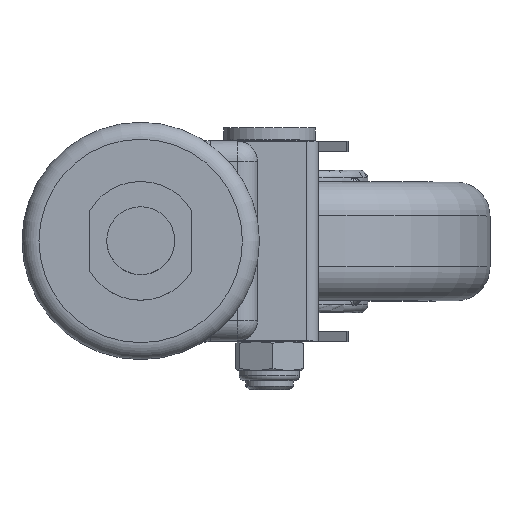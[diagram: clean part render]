
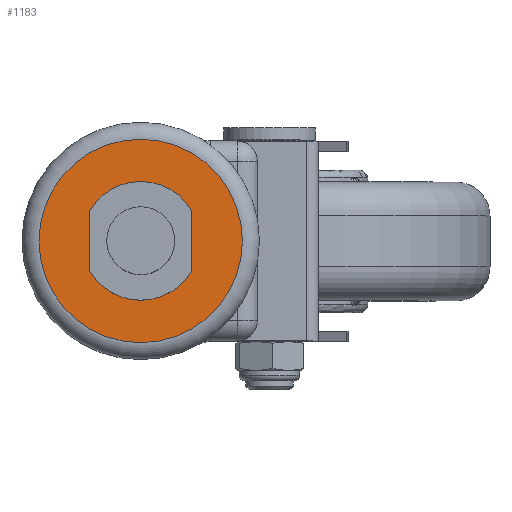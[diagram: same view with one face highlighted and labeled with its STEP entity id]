
A CAD part, top view. The second image highlights one B-rep face of the part: STEP entity #1183.
In plain terms, the highlighted planar face has unit normal (0, 0, 1).
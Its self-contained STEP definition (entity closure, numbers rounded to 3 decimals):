
#1183=ADVANCED_FACE('',(#3744,#3745),#1909,.F.);
#1909=PLANE('',#11648);
#2937=LINE('',#16042,#3336);
#2940=LINE('',#16105,#3339);
#3336=VECTOR('',#12854,1.);
#3339=VECTOR('',#12861,1.);
#3744=FACE_BOUND('',#3953,.T.);
#3745=FACE_BOUND('',#3954,.T.);
#3953=EDGE_LOOP('',(#4986));
#3954=EDGE_LOOP('',(#4987,#4988,#4989,#4990));
#4986=ORIENTED_EDGE('',*,*,#9482,.F.);
#4987=ORIENTED_EDGE('',*,*,#9480,.F.);
#4988=ORIENTED_EDGE('',*,*,#9478,.T.);
#4989=ORIENTED_EDGE('',*,*,#9476,.T.);
#4990=ORIENTED_EDGE('',*,*,#9475,.T.);
#8392=VERTEX_POINT('',#15982);
#8393=VERTEX_POINT('',#15984);
#8394=VERTEX_POINT('',#16043);
#8395=VERTEX_POINT('',#16047);
#8397=VERTEX_POINT('',#16111);
#9475=EDGE_CURVE('',#8392,#8393,#11051,.T.);
#9476=EDGE_CURVE('',#8394,#8392,#2937,.T.);
#9478=EDGE_CURVE('',#8395,#8394,#11052,.T.);
#9480=EDGE_CURVE('',#8395,#8393,#2940,.T.);
#9482=EDGE_CURVE('',#8397,#8397,#11054,.T.);
#11051=CIRCLE('',#11641,17.5);
#11052=CIRCLE('',#11643,17.5);
#11054=CIRCLE('',#11647,30.);
#11641=AXIS2_PLACEMENT_3D('',#15985,#12852,#12853);
#11643=AXIS2_PLACEMENT_3D('',#16046,#12858,#12859);
#11647=AXIS2_PLACEMENT_3D('',#16110,#12868,#12869);
#11648=AXIS2_PLACEMENT_3D('',#16112,#12870,#12871);
#12852=DIRECTION('',(0.,0.,-1.));
#12853=DIRECTION('',(0.,1.,0.));
#12854=DIRECTION('',(0.,1.,0.));
#12858=DIRECTION('',(0.,0.,-1.));
#12859=DIRECTION('',(0.,1.,0.));
#12861=DIRECTION('',(0.,1.,0.));
#12868=DIRECTION('',(0.,0.,-1.));
#12869=DIRECTION('',(0.,1.,0.));
#12870=DIRECTION('',(0.,0.,-1.));
#12871=DIRECTION('',(0.,-1.,0.));
#15982=CARTESIAN_POINT('',(-15.,9.014,-54.));
#15984=CARTESIAN_POINT('',(15.,9.014,-54.));
#15985=CARTESIAN_POINT('',(0.,0.,-54.));
#16042=CARTESIAN_POINT('',(-15.,0.,-54.));
#16043=CARTESIAN_POINT('',(-15.,-9.014,-54.));
#16046=CARTESIAN_POINT('',(0.,0.,-54.));
#16047=CARTESIAN_POINT('',(15.,-9.014,-54.));
#16105=CARTESIAN_POINT('',(15.,0.,-54.));
#16110=CARTESIAN_POINT('',(0.,0.,-54.));
#16111=CARTESIAN_POINT('',(0.,30.,-54.));
#16112=CARTESIAN_POINT('',(-8.,0.,-54.));
